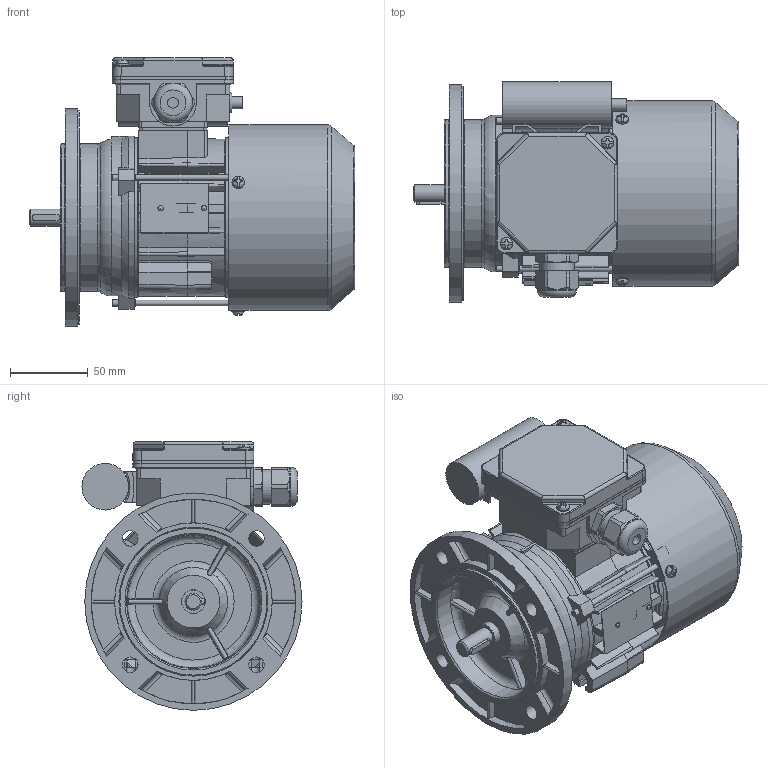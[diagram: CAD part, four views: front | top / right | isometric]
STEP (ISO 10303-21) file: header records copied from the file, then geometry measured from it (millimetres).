
FILE_DESCRIPTION( ( 'Unknown' ), '1' );
FILE_NAME( 'G:/Poczta Tk-1/STP/w.m.63/SEh63/SE(M)Kh63-B.stp', 'Unknown', ( 'K. Szlosek' ), ( 'BESEL S.A.' ), 'PSStep 17.0.49', 'Unknown', ' ' );
FILE_SCHEMA( ( 'AUTOMOTIVE_DESIGN { 1 0 10303 214 1 1 1 1 }' ) );
Length unit declared in the file: millimetre
Products named in the file (32): Assem1; K3-5320 Tarcza łożyskowa P Sg63; K4-2320 Uszczelka nr 1 Sh71,80; Wpust A4x4x18; K4-2820 Uszczelka nr 2 Sh71,80; K2-0860 Pokrywka skrzynki zaciskowej; Wkręt samogwintujący M4x16; K4-0898 Tulejka uszczelniająca; Kondensator zb 8-10uF; K2-1769 Przewietrznik Sg63; Wkręt samogwintujący M4x8; K3-9974 wał Sh63-A,B standard; K3-9973 Kadłub ze stojanem wykończonym Sh63-B; K3-9440 Podstawa  skrzynki zaciskowej SEhR71-D; K3-1974 Uchwyt kondensatora (mały); K1-1110 Tarcza kołnierzowa nowa SKg63-..; K3-5321 osłona przewietrznika Sg63; Tabliczka znamionowa 32x44; Śruba ściągająca E_M4x85; Łożysko 6202; Dławnica M20x1,5; Nitokołek A 2x6
Assembly tree (48 placements, depth 2):
  Assem1
    K3-5320 Tarcza łożyskowa P Sg63
    K4-2320 Uszczelka nr 1 Sh71,80
    Wpust A4x4x18
    K4-2820 Uszczelka nr 2 Sh71,80
    K2-0860 Pokrywka skrzynki zaciskowej
    Wkręt samogwintujący M4x16  x2
    K4-0898 Tulejka uszczelniająca
    Kondensator zb 8-10uF
    K2-1769 Przewietrznik Sg63
    Wkręt samogwintujący M4x8  x3
    K3-9974 wał Sh63-A,B standard
    K3-9973 Kadłub ze stojanem wykończonym Sh63-B
    K3-9440 Podstawa  skrzynki zaciskowej SEhR71-D
    K3-1974 Uchwyt kondensatora (mały)
    K1-1110 Tarcza kołnierzowa nowa SKg63-..
    K3-5321 osłona przewietrznika Sg63
    Tabliczka znamionowa 32x44
    Śruba ściągająca E_M4x85  x3
    Łożysko 6202  x2
    Łożysko 6202  x2
    Łożysko 6202  x2
    Łożysko 6202  x2
    Łożysko 6202  x2
    Łożysko 6202  x2
    Łożysko 6202  x2
    Łożysko 6202  x2
    Łożysko 6202  x2
    Łożysko 6202  x2
    Łożysko 6202  x2
    Dławnica M20x1,5
    Nitokołek A 2x6  x2
Bounding box: 209.5 x 141.82 x 173 mm (x, y, z)
Volume: 568505.7 mm3; surface area: 366320.7 mm2
Topology: 48 solids, 66 shells, 1910 faces, 5231 edges, 3399 vertices
Faces by surface type: plane 958, cylinder 570, cone 128, torus 116, bspline 99, sphere 39
Full cylindrical faces by diameter (mm): 2 x2, 2.4 x2, 3 x1, 3.3 x3, 3.5 x2, 3.7 x10, 4 x8, 4.5 x4, 4.6 x1, 4.8 x4, 5 x4, 6.5 x1, 7 x4, 8 x7, 10 x6, 11 x1, 12.9 x1, 13.1 x1, 13.5 x1, 15 x4, 15.4 x2, 18.38 x1, 18.5 x1, 19 x2, 19.5 x1, 20 x2, 20.1 x1, 21.52 x4, 22.3 x1, 25 x1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
Entity records: 80998 total; most frequent: CARTESIAN_POINT 25570, ORIENTED_EDGE 8996, DIRECTION 8716, EDGE_CURVE 4498, AXIS2_PLACEMENT_3D 3243, VERTEX_POINT 3072, LINE 2230, VECTOR 2230
